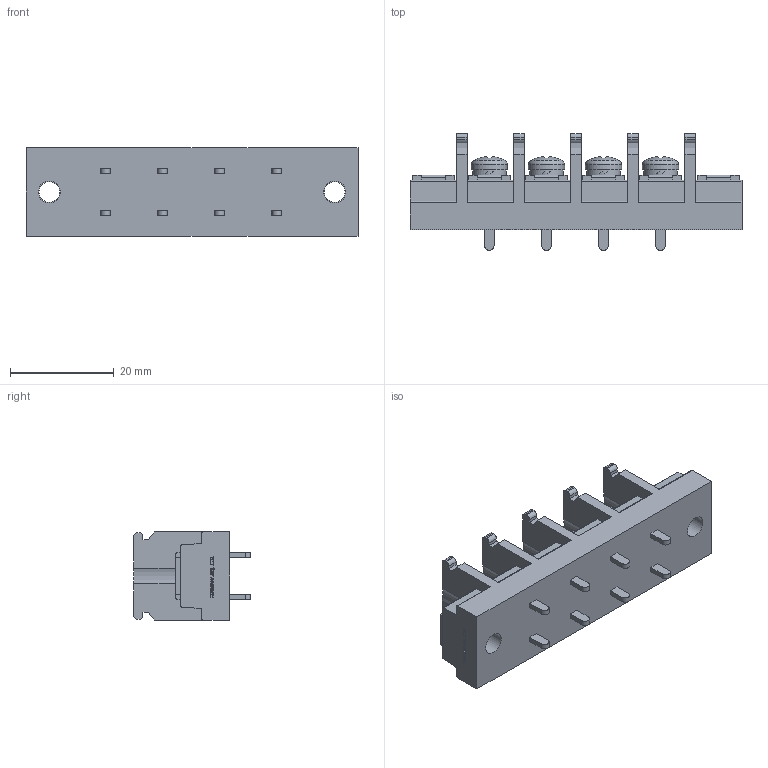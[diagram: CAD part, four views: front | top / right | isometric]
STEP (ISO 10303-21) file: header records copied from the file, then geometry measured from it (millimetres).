
FILE_DESCRIPTION(/* description */ ('Alibre Inc.'),/* implementation_level */ '2;1');
FILE_NAME(/* name */ 'export0',/* time_stamp */ '2015-10-19T19:48:26+09:00',/* author */ (''),/* organization */ (''),/* preprocessor_version */ 'ST-DEVELOPER v14',/* originating_system */ 'Alibre',/* authorisation */ '');
FILE_SCHEMA (('CONFIG_CONTROL_DESIGN'));
Length unit declared in the file: centimetre
Products named in the file (1): ID_1
Bounding box: 64 x 22.5 x 17 mm (x, y, z)
Volume: 11282.1 mm3; surface area: 6567.1 mm2
Topology: 1 solids, 1 shells, 764 faces, 2096 edges, 1394 vertices
Faces by surface type: plane 542, bspline 104, cylinder 90, cone 16, torus 8, sphere 4
Full cylindrical faces by diameter (mm): 4 x6, 4.2 x2, 6.5 x4, 7 x4
Entity records: 23489 total; most frequent: CARTESIAN_POINT 5244, ORIENTED_EDGE 4124, DIRECTION 2871, EDGE_CURVE 2062, VECTOR 1517, LINE 1517, VERTEX_POINT 1380, AXIS2_PLACEMENT_3D 939
